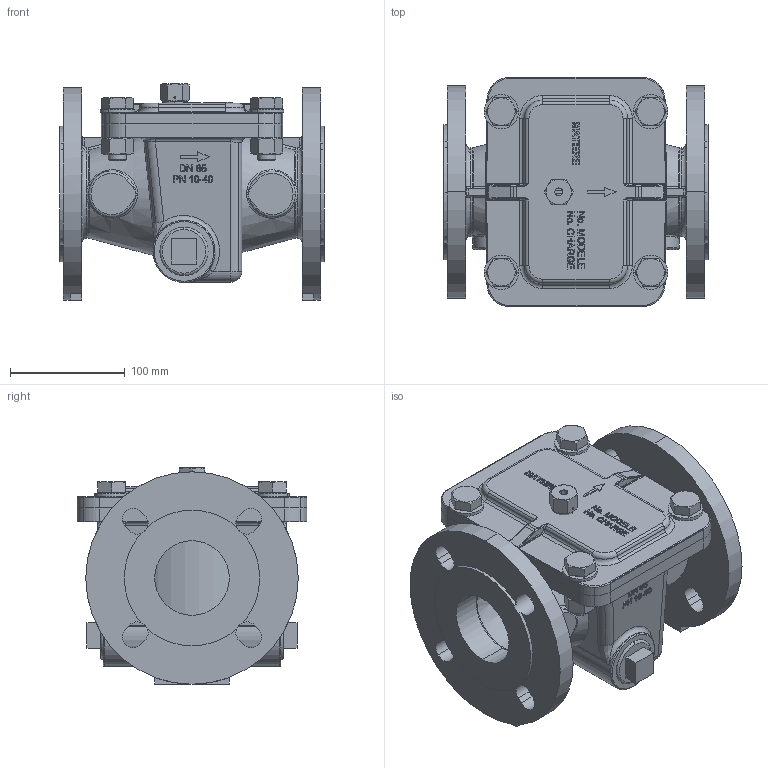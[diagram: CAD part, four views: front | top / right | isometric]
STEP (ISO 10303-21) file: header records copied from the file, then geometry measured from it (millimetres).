
FILE_DESCRIPTION (( 'STEP AP203' ), '1' );
FILE_NAME ('2.5in X43H 150LB RF.stp', '2021-08-20T15:39:28', ( '' ), ( '' ), 'SwSTEP 2.0', 'SolidWorks 2019', '' );
FILE_SCHEMA (( 'CONFIG_CONTROL_DESIGN' ));
Length unit declared in the file: inch
Products named in the file (15): ISO 7089 - 16 - 140 HV.stp; 57507.stp; 57972.stp; 57576-07.stp; 57988-16.stp; ISO 4017 - M16 x 45.stp; 57971.stp; BGT7001.stp; 57973Prot.stp; 2.5in X43H 150LB RF; 57973.stp; 57576-02.stp; ISO 4032 - M16.stp; FAB065-16RF.stp; 57973Tami.stp
Assembly tree (24 placements, depth 4):
  2.5in X43H 150LB RF
    FAB065-16RF.stp
      57973.stp
        57973Prot.stp
        57973Tami.stp
      57576-02.stp
        57576-07.stp
        57507.stp
      57971.stp
      57972.stp
      BGT7001.stp  x2
      ISO 4017 - M16 x 45.stp  x4
      ISO 7089 - 16 - 140 HV.stp  x4
      ISO 4032 - M16.stp  x4
      57988-16.stp
Bounding box: 230 x 200 x 188.5 mm (x, y, z)
Volume: 2077477.9 mm3; surface area: 522912.5 mm2
Topology: 21 solids, 21 shells, 1834 faces, 4761 edges, 3039 vertices
Faces by surface type: plane 848, cylinder 487, bspline 275, cone 110, torus 110, sphere 4
Entity records: 58723 total; most frequent: CARTESIAN_POINT 17245, ORIENTED_EDGE 8802, DIRECTION 7340, EDGE_CURVE 4401, VERTEX_POINT 2831, LINE 2594, VECTOR 2594, AXIS2_PLACEMENT_3D 2373
